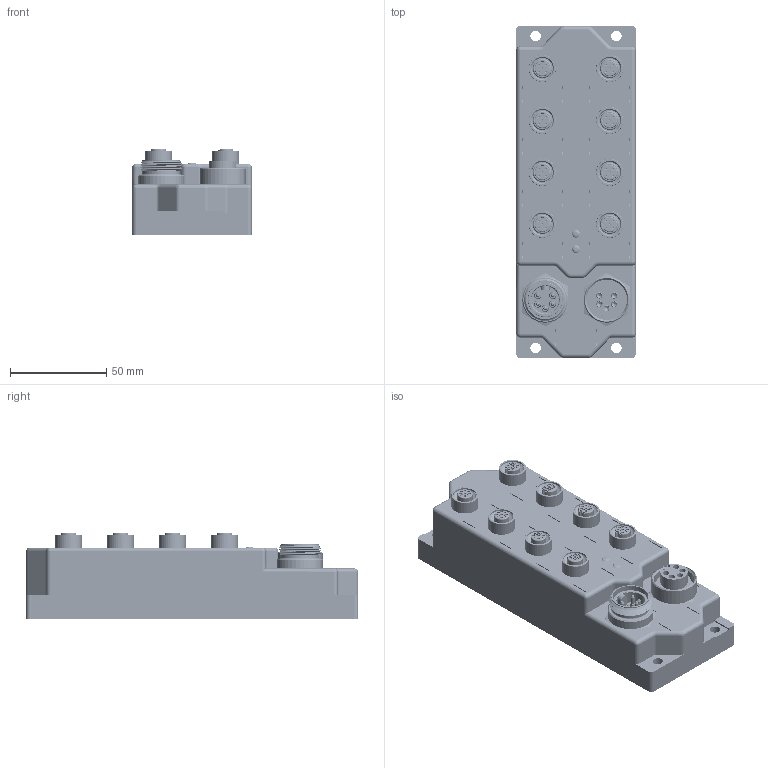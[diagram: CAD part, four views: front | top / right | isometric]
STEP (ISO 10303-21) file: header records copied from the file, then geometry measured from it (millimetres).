
FILE_DESCRIPTION((''),'2;1');
FILE_NAME('C:\TurckZip\JBBS-57-E811.stp','2007-10-31T08:42:32',('IKOROL'),(''),'Autodesk Inventor 2008','Autodesk Inventor 2008','');
FILE_SCHEMA(('AUTOMOTIVE_DESIGN { 1 2 10303 214 0 1 1 1 }'));
Length unit declared in the file: millimetre
Products named in the file (1): Part6
Bounding box: 62.14 x 172.5 x 45.1 mm (x, y, z)
Volume: 356216.5 mm3; surface area: 67110.5 mm2
Topology: 147 solids, 147 shells, 4794 faces, 13881 edges, 8905 vertices
Faces by surface type: plane 2401, cylinder 1874, cone 353, bspline 124, torus 36, sphere 6
Full cylindrical faces by diameter (mm): 1.1 x40, 1.3 x40, 1.5 x40, 1.6 x45, 1.7 x125, 1.98 x5, 2 x5, 2.155 x5, 2.25 x5, 2.8 x5, 2.85 x5, 3 x10, 3.2 x5, 3.25 x10, 3.3 x5, 5.4 x4, 9.6 x16, 11 x8, 12 x8, 12.3 x8, 14 x2, 14.1 x8, 14.2 x3, 18 x2, 18.2 x2, 18.5 x1, 19.9 x2, 21.03 x1, 22.5 x2, 22.8 x2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
Entity records: 162811 total; most frequent: CARTESIAN_POINT 33663, DIRECTION 26337, ORIENTED_EDGE 25564, EDGE_CURVE 12782, AXIS2_PLACEMENT_3D 9957, VERTEX_POINT 8575, VECTOR 6423, LINE 6423
